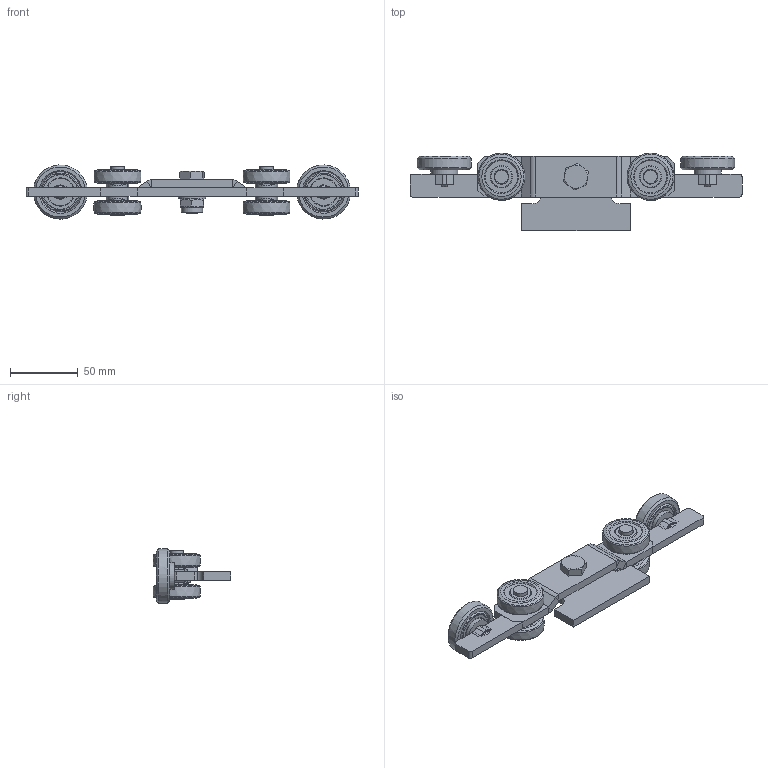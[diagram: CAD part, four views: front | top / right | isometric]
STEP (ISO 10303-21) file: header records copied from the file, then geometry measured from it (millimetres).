
FILE_DESCRIPTION(/* description */ ('Rollenhalter mit Seiten Nr.2'),/* implementation_level */ '2;1');
FILE_NAME(/* name */ 'Q:\sge-ma\Produktmanagement-STB\STB\Workspace\stp\010337932.stp',/* time_stamp */ '2016-07-14T15:55:23+02:00',/* author */ ('avschreier'),/* organization */ (''),/* preprocessor_version */ 'ST-DEVELOPER v16.1',/* originating_system */ 'Autodesk Inventor 2016',/* authorisation */ '');
FILE_SCHEMA (('AUTOMOTIVE_DESIGN { 1 0 10303 214 3 1 1 }'));
Length unit declared in the file: millimetre
Products named in the file (17): 336300021_Schweißnähte; 337000121; 000302065; 000302000; 000226094; 337000282; DIN_625-6000_ZZ_en; 000302009; 336300021; 000302061; DIN_EN_ISO_7040-M10_en; DIN_EN_ISO_4017-M10x25_en; DIN_EN_ISO_7090-10,5_en; 336290020; 000303236; 000304013; 010337932
Assembly tree (27 placements, depth 4):
  010337932
    336300021
      336300021_Schweißnähte
      337000121
      000302065  x2
      000302000  x2
      000226094  x2
      000302009  x2
        337000282
        DIN_625-6000_ZZ_en
    000302061
    DIN_EN_ISO_7040-M10_en
    DIN_EN_ISO_4017-M10x25_en
    DIN_EN_ISO_7090-10,5_en
    336290020  x4
    000303236  x4
    000304013  x2
Bounding box: 245 x 57.5 x 39.94 mm (x, y, z)
Volume: 120356.2 mm3; surface area: 62091.6 mm2
Topology: 37 solids, 39 shells, 559 faces, 1317 edges, 838 vertices
Faces by surface type: plane 305, cylinder 90, cone 64, bspline 46, torus 42, sphere 12
Full cylindrical faces by diameter (mm): 8.376 x1, 9.188 x1, 9.9 x2, 10 x9, 10.1 x1, 10.3 x1, 10.5 x3, 12 x2, 15.12 x8, 15.4 x1, 15.6 x1, 19 x2, 20 x3, 20.88 x8, 26 x4
Entity records: 16004 total; most frequent: CARTESIAN_POINT 9054, DIRECTION 1381, ORIENTED_EDGE 1264, EDGE_CURVE 632, AXIS2_PLACEMENT_3D 538, VERTEX_POINT 429, EDGE_LOOP 407, ADVANCED_FACE 311
